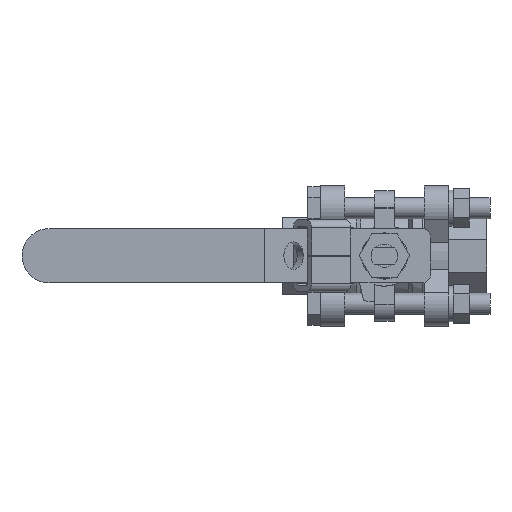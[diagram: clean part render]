
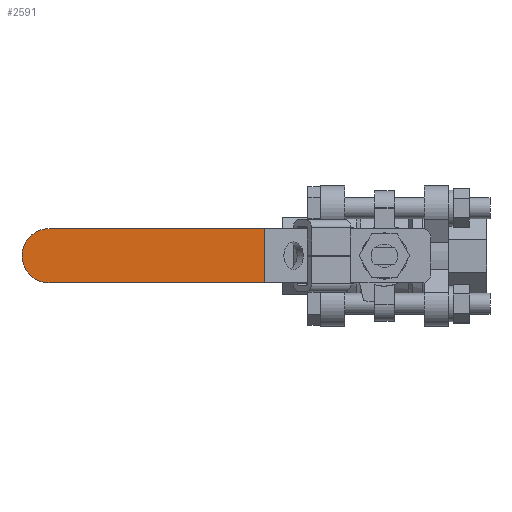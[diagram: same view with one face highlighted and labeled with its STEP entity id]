
A CAD part, top view. The second image highlights one B-rep face of the part: STEP entity #2591.
In plain terms, the highlighted planar face has unit normal (0, 0, 1).
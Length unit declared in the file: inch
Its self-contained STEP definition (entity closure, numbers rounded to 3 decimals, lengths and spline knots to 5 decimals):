
#2423=CARTESIAN_POINT('',(-2.712,-0.315,2.5959));
#2424=VERTEX_POINT('',#2423);
#2431=CARTESIAN_POINT('',(-2.712,0.315,2.5959));
#2432=VERTEX_POINT('',#2431);
#2433=CARTESIAN_POINT('',(-2.712,0.,2.5959));
#2434=DIRECTION('',(0.0,0.0,1.0));
#2435=DIRECTION('',(-1.0,0.0,0.0));
#2436=AXIS2_PLACEMENT_3D('',#2433,#2434,#2435);
#2437=CIRCLE('',#2436,0.315);
#2438=EDGE_CURVE('',#2432,#2424,#2437,.T.);
#2495=CARTESIAN_POINT('',(-0.20434,-0.315,2.5959));
#2496=VERTEX_POINT('',#2495);
#2503=CARTESIAN_POINT('',(-2.712,-0.315,2.5959));
#2504=DIRECTION('',(1.0,0.0,0.0));
#2505=VECTOR('',#2504,2.50766);
#2506=LINE('',#2503,#2505);
#2507=EDGE_CURVE('',#2424,#2496,#2506,.T.);
#2518=CARTESIAN_POINT('',(-0.20434,0.315,2.5959));
#2519=VERTEX_POINT('',#2518);
#2520=CARTESIAN_POINT('',(-0.20434,0.315,2.5959));
#2521=DIRECTION('',(-1.0,0.0,0.0));
#2522=VECTOR('',#2521,2.50766);
#2523=LINE('',#2520,#2522);
#2524=EDGE_CURVE('',#2519,#2432,#2523,.T.);
#2575=CARTESIAN_POINT('',(-0.20434,-0.315,2.5959));
#2576=DIRECTION('',(0.0,0.0,1.0));
#2577=DIRECTION('',(1.0,0.0,0.0));
#2578=AXIS2_PLACEMENT_3D('',#2575,#2576,#2577);
#2579=PLANE('',#2578);
#2580=ORIENTED_EDGE('',*,*,#2438,.T.);
#2581=ORIENTED_EDGE('',*,*,#2507,.T.);
#2582=CARTESIAN_POINT('',(-0.20434,-0.315,2.5959));
#2583=DIRECTION('',(0.0,1.0,0.0));
#2584=VECTOR('',#2583,0.63);
#2585=LINE('',#2582,#2584);
#2586=EDGE_CURVE('',#2496,#2519,#2585,.T.);
#2587=ORIENTED_EDGE('',*,*,#2586,.T.);
#2588=ORIENTED_EDGE('',*,*,#2524,.T.);
#2589=EDGE_LOOP('',(#2580,#2581,#2587,#2588));
#2590=FACE_OUTER_BOUND('',#2589,.T.);
#2591=ADVANCED_FACE('',(#2590),#2579,.T.);
